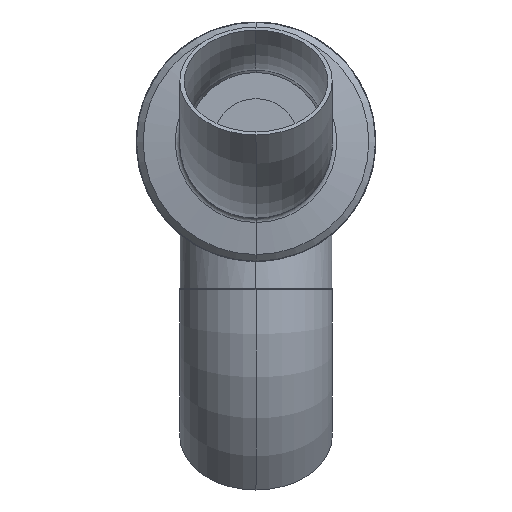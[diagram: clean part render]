
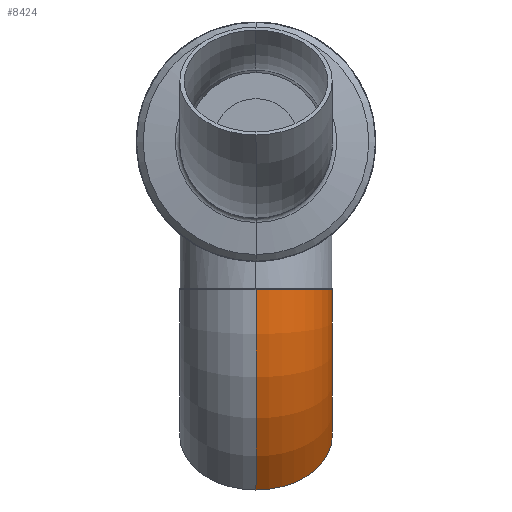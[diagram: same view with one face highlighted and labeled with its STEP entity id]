
A CAD part, front view. The second image highlights one B-rep face of the part: STEP entity #8424.
In plain terms, the highlighted toroidal (fillet/blend) face has major radius 190 mm and minor radius 69.85 mm.
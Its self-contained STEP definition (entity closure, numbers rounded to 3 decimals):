
#201 = CARTESIAN_POINT ( 'NONE',  ( 84.959, -105.041, 0. ) ) ;
#425 = CARTESIAN_POINT ( 'NONE',  ( 183.742, -6.258, 0. ) ) ;
#2147 = EDGE_CURVE ( 'NONE', #5745, #6807, #3830, .T. ) ;
#2429 = CARTESIAN_POINT ( 'NONE',  ( 0., -69.85, 0. ) ) ;
#2499 = ORIENTED_EDGE ( 'NONE', *, *, #2147, .T. ) ;
#3003 = ORIENTED_EDGE ( 'NONE', *, *, #4889, .T. ) ;
#3519 = EDGE_CURVE ( 'NONE', #7754, #7773, #5816, .T. ) ;
#3830 = CIRCLE ( 'NONE', #3831, 69.85 ) ;
#3831 = AXIS2_PLACEMENT_3D ( 'NONE', #3832, #3833, #3834 ) ;
#3832 = CARTESIAN_POINT ( 'NONE',  ( 0., 0., 0. ) ) ;
#3833 = DIRECTION ( 'NONE',  ( 1., 0., 0. ) ) ;
#3834 = DIRECTION ( 'NONE',  ( 0., 0., -1. ) ) ;
#3876 = ORIENTED_EDGE ( 'NONE', *, *, #3519, .F. ) ;
#3915 = CARTESIAN_POINT ( 'NONE',  ( 0., 69.85, 0. ) ) ;
#4287 = CIRCLE ( 'NONE', #4288, 259.85 ) ;
#4288 = AXIS2_PLACEMENT_3D ( 'NONE', #4289, #4290, #4291 ) ;
#4289 = CARTESIAN_POINT ( 'NONE',  ( 0., -190., 0. ) ) ;
#4290 = DIRECTION ( 'NONE',  ( 0., 0., 1. ) ) ;
#4291 = DIRECTION ( 'NONE',  ( 1., 0., 0. ) ) ;
#4336 = ORIENTED_EDGE ( 'NONE', *, *, #7021, .F. ) ;
#4889 = EDGE_CURVE ( 'NONE', #7754, #5745, #6850, .T. ) ;
#5745 = VERTEX_POINT ( 'NONE', #2429 ) ;
#5816 = CIRCLE ( 'NONE', #5817, 69.85 ) ;
#5817 = AXIS2_PLACEMENT_3D ( 'NONE', #5818, #5819, #5820 ) ;
#5818 = CARTESIAN_POINT ( 'NONE',  ( 134.35, -55.65, 0. ) ) ;
#5819 = DIRECTION ( 'NONE',  ( 0.707, -0.707, 0. ) ) ;
#5820 = DIRECTION ( 'NONE',  ( 0., 0., -1. ) ) ;
#6807 = VERTEX_POINT ( 'NONE', #3915 ) ;
#6850 = CIRCLE ( 'NONE', #6851, 120.15 ) ;
#6851 = AXIS2_PLACEMENT_3D ( 'NONE', #6852, #6853, #6854 ) ;
#6852 = CARTESIAN_POINT ( 'NONE',  ( 0., -190., 0. ) ) ;
#6853 = DIRECTION ( 'NONE',  ( 0., 0., 1. ) ) ;
#6854 = DIRECTION ( 'NONE',  ( 1., 0., 0. ) ) ;
#7015 = FACE_OUTER_BOUND ( 'NONE', #8396, .T. ) ;
#7016 = TOROIDAL_SURFACE ( 'NONE', #7017, 190., 69.85 ) ;
#7017 = AXIS2_PLACEMENT_3D ( 'NONE', #7018, #7019, #7022 ) ;
#7018 = CARTESIAN_POINT ( 'NONE',  ( 0., -190., 0. ) ) ;
#7019 = DIRECTION ( 'NONE',  ( 0., 0., 1. ) ) ;
#7021 = EDGE_CURVE ( 'NONE', #7773, #6807, #4287, .T. ) ;
#7022 = DIRECTION ( 'NONE',  ( 1., 0., 0. ) ) ;
#7754 = VERTEX_POINT ( 'NONE', #201 ) ;
#7773 = VERTEX_POINT ( 'NONE', #425 ) ;
#8396 = EDGE_LOOP ( 'NONE', ( #4336, #3876, #3003, #2499 ) ) ;
#8424 = ADVANCED_FACE ( 'NONE', ( #7015 ), #7016, .T. ) ;
